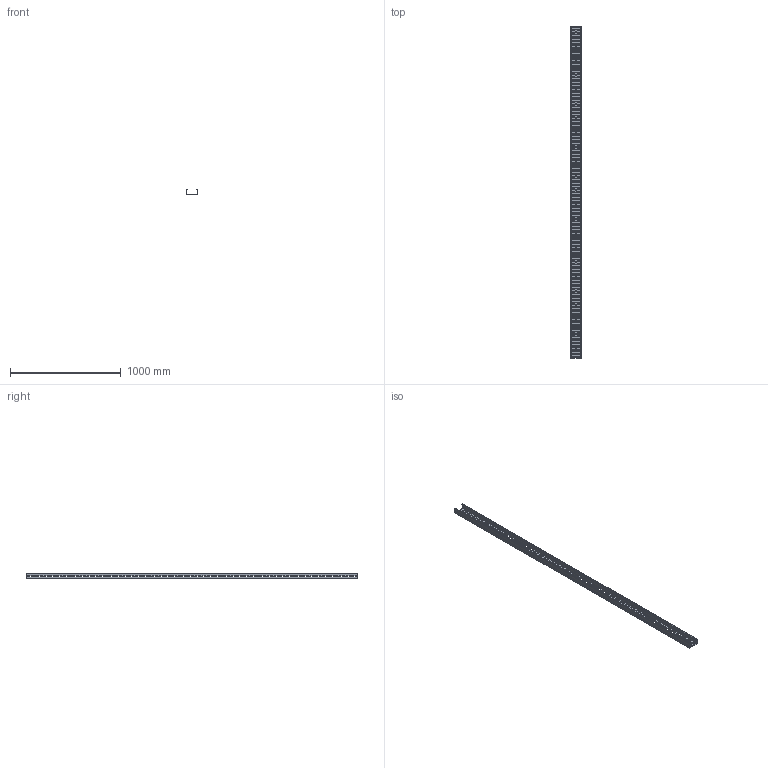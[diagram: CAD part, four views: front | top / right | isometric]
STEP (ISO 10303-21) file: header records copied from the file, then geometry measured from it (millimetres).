
FILE_DESCRIPTION(/* description */ (''),/* implementation_level */ '2;1');
FILE_NAME(/* name */ 'GE-KT2-10-A50-15.step',/* time_stamp */ '2025-06-27T11:35:42+03:00',/* author */ (''),/* organization */ (''),/* preprocessor_version */ 'ST-DEVELOPER v20.1',/* originating_system */ 'Autodesk Translation Framework v14.10.0.0',/* authorisation */ '');
FILE_SCHEMA (('AUTOMOTIVE_DESIGN { 1 0 10303 214 3 1 1 }'));
Products named in the file (1): GE-KT2-10-A50-15-reçete
Bounding box: 100 x 3000 x 50 mm (x, y, z)
Volume: 772546.5 mm3; surface area: 1092316 mm2
Topology: 1 solids, 1 shells, 2343 faces, 7023 edges, 4682 vertices
Faces by surface type: cylinder 1179, plane 1164
Full cylindrical faces by diameter (mm): 15 x23
Entity records: 82060 total; most frequent: DIRECTION 14069, CARTESIAN_POINT 14049, ORIENTED_EDGE 14046, EDGE_CURVE 7023, AXIS2_PLACEMENT_3D 4702, VERTEX_POINT 4682, LINE 4665, VECTOR 4665
